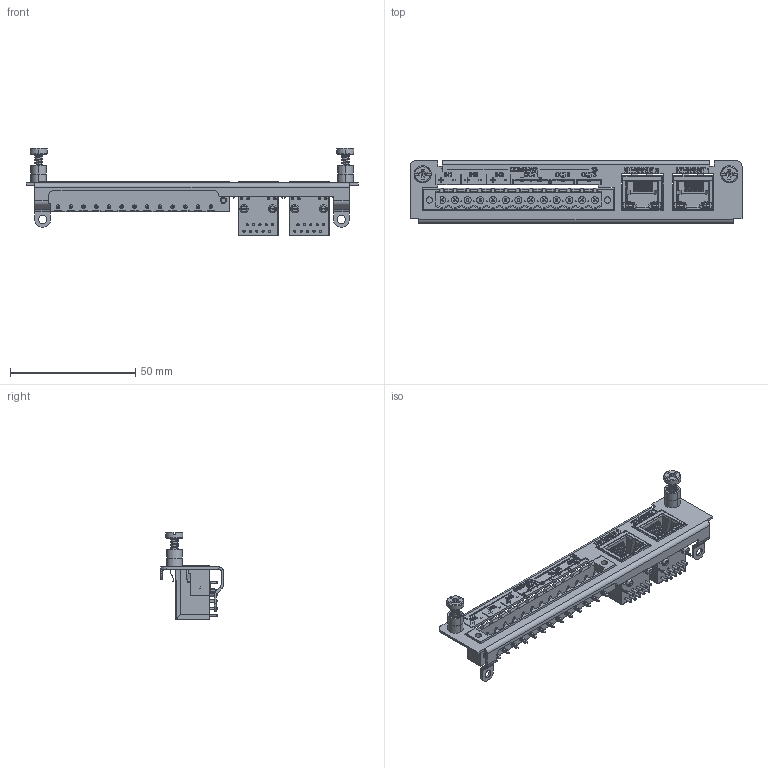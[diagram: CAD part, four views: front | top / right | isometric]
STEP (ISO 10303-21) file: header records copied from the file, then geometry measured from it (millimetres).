
FILE_DESCRIPTION(/* description */ (''),/* implementation_level */ '2;1');
FILE_NAME(/* name */ 'C:\Users\jondi\Desktop\FLEX 3D STP\W2.stp',/* time_stamp */ '2021-03-10T15:09:11-06:00',/* author */ ('jondi'),/* organization */ (''),/* preprocessor_version */ 'ST-DEVELOPER v17.2',/* originating_system */ 'Autodesk Inventor 2019',/* authorisation */ '');
FILE_SCHEMA (('AUTOMOTIVE_DESIGN { 1 0 10303 214 3 1 1 }'));
Products named in the file (9): W2; 9579230105; 9579200028; 9579200028_1; 44090; 9579200060; 1776618_05; mstb_2.5-13-gf-5.08; 43268 Copy
Assembly tree (10 placements, depth 4):
  W2
    9579230105
      9579200028
        9579200028_1
      44090  x2
    9579200060
    1776618_05
      mstb_2.5-13-gf-5.08
    43268 Copy  x2
Bounding box: 132.59 x 25.02 x 35.13 mm (x, y, z)
Volume: 7211.2 mm3; surface area: 21513.4 mm2
Topology: 75 solids, 103 shells, 2936 faces, 7115 edges, 4529 vertices
Faces by surface type: plane 2244, bspline 335, cylinder 229, cone 75, torus 40, sphere 13
Full cylindrical faces by diameter (mm): 0.434 x1, 0.89 x20, 1.02 x8, 1.4 x13, 1.8 x2, 2.4 x2, 2.5 x2, 2.8 x12, 3.251 x2, 4.826 x2
Entity records: 78569 total; most frequent: CARTESIAN_POINT 20978, ORIENTED_EDGE 11755, DIRECTION 10605, EDGE_CURVE 5889, LINE 4547, VECTOR 4547, VERTEX_POINT 3734, AXIS2_PLACEMENT_3D 3029
